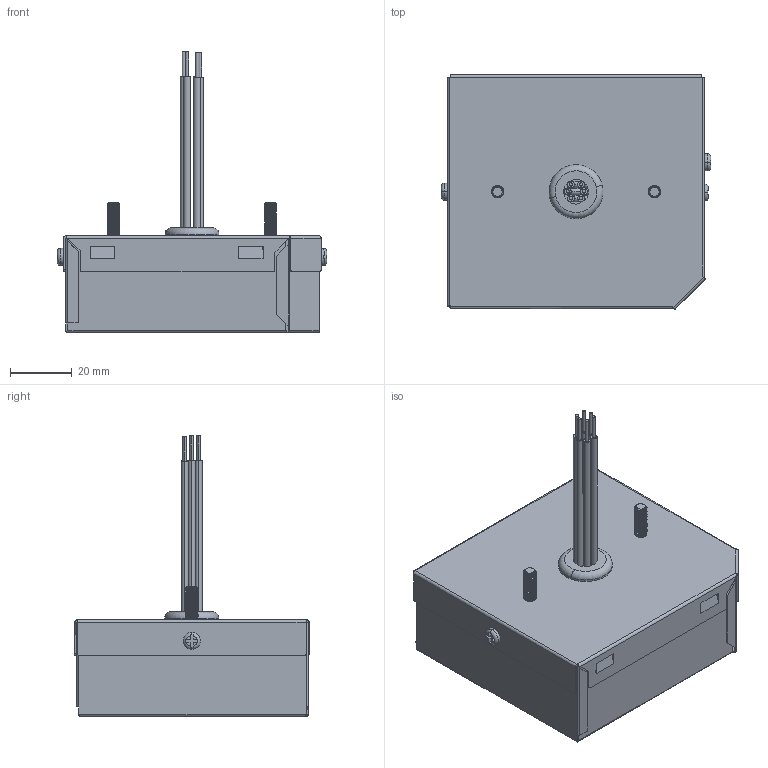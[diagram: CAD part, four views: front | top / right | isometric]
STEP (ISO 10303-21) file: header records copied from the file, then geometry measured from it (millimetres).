
FILE_DESCRIPTION((''),'2;1');
FILE_NAME('SDHV070D20C_ANY_ASM','2019-02-27T',('JACKY.LEE'),(''),'PRO/ENGINEER BY PARAMETRIC TECHNOLOGY CORPORATION, 2009440','PRO/ENGINEER BY PARAMETRIC TECHNOLOGY CORPORATION, 2009440','');
FILE_SCHEMA(('CONFIG_CONTROL_DESIGN'));
Length unit declared in the file: millimetre
Products named in the file (11): M3XL6_SCREW_ANY; INPUT_WHITE_ANY; OUTPUT_GREY_ANY; OUTPUT_RED_ANY; GROMMET_ANY; INPUT_BLACK_ANY; SDHV070D20C_BASE_ANY; OUTPUT_PURPLE_ANY; OUTPUT_BLUE_ANY; SDHV070D20C_COVER_ANY; SDHV070D20C_ANY_ASM
Assembly tree (12 placements, depth 2):
  SDHV070D20C_ANY_ASM
    M3XL6_SCREW_ANY  x3
    INPUT_WHITE_ANY
    OUTPUT_GREY_ANY
    OUTPUT_RED_ANY
    GROMMET_ANY
    INPUT_BLACK_ANY
    SDHV070D20C_BASE_ANY
    OUTPUT_PURPLE_ANY
    OUTPUT_BLUE_ANY
    SDHV070D20C_COVER_ANY
Bounding box: 87.3 x 75.97 x 90.82 mm (x, y, z)
Volume: 19909.1 mm3; surface area: 54911.1 mm2
Topology: 12 solids, 12 shells, 513 faces, 1301 edges, 827 vertices
Faces by surface type: plane 244, cylinder 221, torus 38, cone 6, bspline 4
Entity records: 20281 total; most frequent: CARTESIAN_POINT 8996, ORIENTED_EDGE 2346, DIRECTION 2228, EDGE_CURVE 1173, AXIS2_PLACEMENT_3D 780, VERTEX_POINT 743, VECTOR 668, LINE 668
